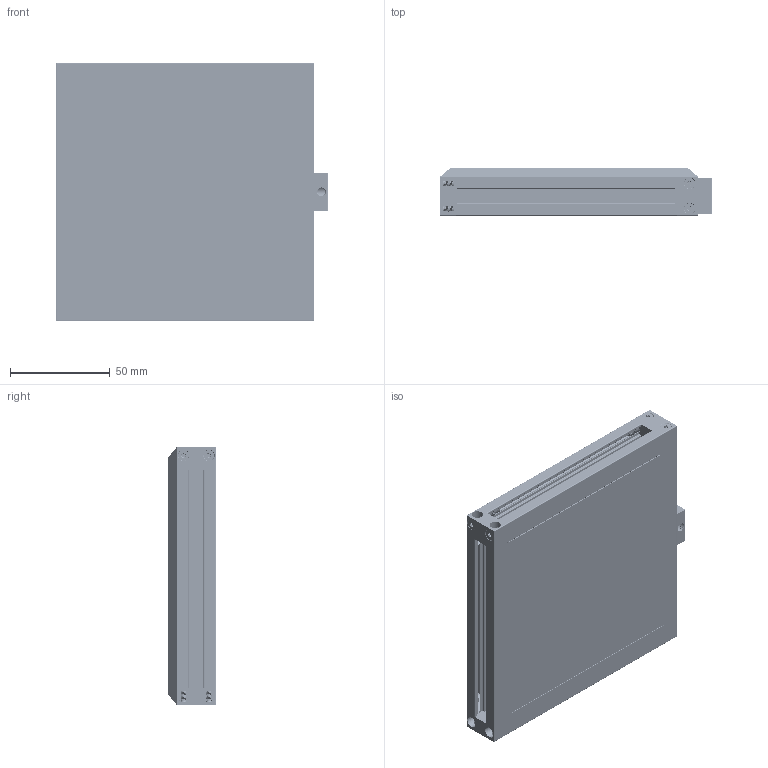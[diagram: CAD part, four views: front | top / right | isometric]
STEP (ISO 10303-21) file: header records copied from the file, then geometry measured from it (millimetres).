
FILE_DESCRIPTION (( 'STEP AP214' ), '1' );
FILE_NAME ('BL2-0404.STEP', '2022-11-09T18:53:50', ( '' ), ( '' ), 'SwSTEP 2.0', 'SolidWorks 2018', '' );
FILE_SCHEMA (( 'AUTOMOTIVE_DESIGN' ));
Length unit declared in the file: inch
Products named in the file (9): 129-01-005-XXYY_129-01-005-0404; 098787; 098861_098861; 129-01-006-XXXX_129-01-006-0404; 098782_098793-04; 095606_Default<As Machined>; BL2-0404; 098782_098794-04; 098862_098862
Assembly tree (27 placements, depth 2):
  BL2-0404
    129-01-006-XXXX_129-01-006-0404
    098782_098794-04
    098782_098793-04  x3
    098787  x4
    098861_098861  x8
    098862_098862  x8
    095606_Default<As Machined>
    129-01-005-XXYY_129-01-005-0404
Bounding box: 136.31 x 24.05 x 129.39 mm (x, y, z)
Volume: 171103.8 mm3; surface area: 112606.5 mm2
Topology: 27 solids, 27 shells, 1723 faces, 4684 edges, 3040 vertices
Faces by surface type: cylinder 1154, cone 274, plane 238, bspline 57
Entity records: 24312 total; most frequent: CARTESIAN_POINT 13865, ORIENTED_EDGE 2288, DIRECTION 1930, EDGE_CURVE 1144, VERTEX_POINT 748, AXIS2_PLACEMENT_3D 701, VECTOR 528, LINE 528
